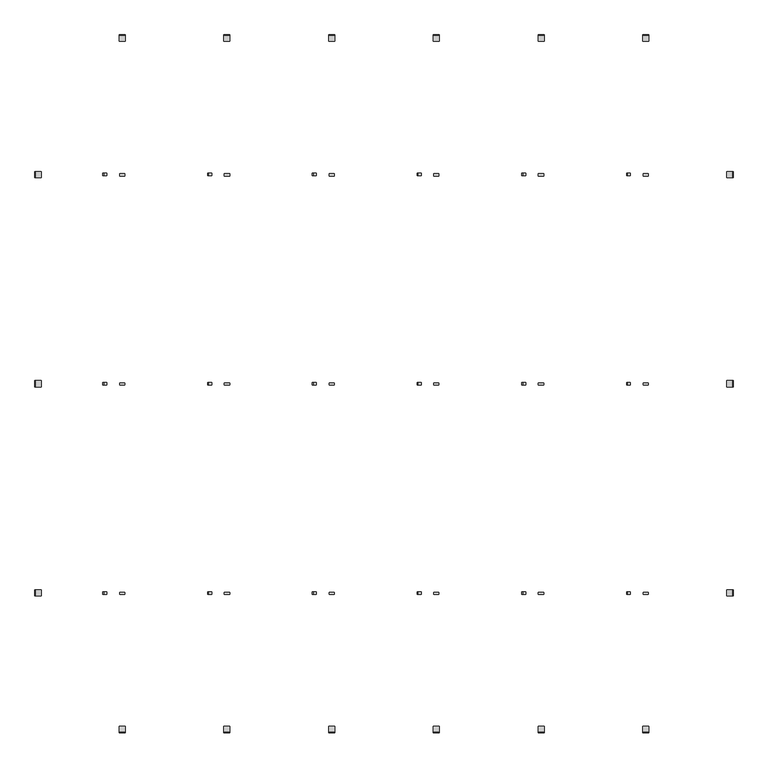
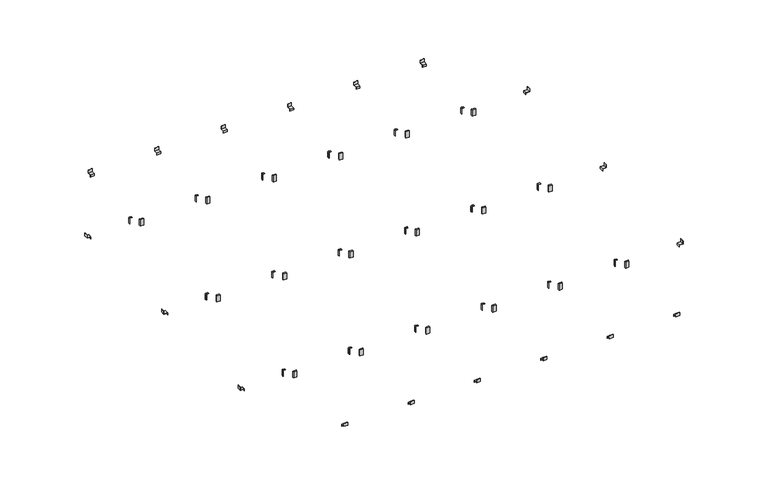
"""IFC4 building model written with IfcOpenShell, lengths in millimetres: proxy geometry, durlum_S1 : durlum_S1_600x600."""

from ifc_helpers import new_model, si_unit, point, frame, frame_2d, origin, place, context, project, spatial, polyline, circle_curve, trimmed, segment, composite_curve, outline, extrude, source, transform, mapped, element, save


def generic_models_de900850(model_context):
    return source(origin(), model_context, "Body", "SweptSolid", [
        extrude(outline(polyline([(2000.0, 2046.0), (1966.0, 2046.0), (1966.0, 2028.0), (1965.0, 2028.0), (1965.0, 2047.0), (1999.0, 2047.0), (1999.0, 2075.0), (2000.0, 2075.0), (2000.0, 2046.0)])), frame((882.6800527, 0.0, 0.0), z_axis=(1.0, 0.0, 0.0), x_axis=(0.0, 1.0, 0.0)), (0.0, 0.0, 1.0), 34.6398947),
        extrude(outline(polyline([(-2000.0, 2046.0), (-2000.0, 2075.0), (-1999.0, 2075.0), (-1999.0, 2047.0), (-1965.0, 2047.0), (-1965.0, 2028.0), (-1966.0, 2028.0), (-1966.0, 2046.0), (-2000.0, 2046.0)])), frame((882.6800527, 0.0, 0.0), z_axis=(1.0, 0.0, 0.0), x_axis=(0.0, 1.0, 0.0)), (0.0, 0.0, 1.0), 34.6398947),
        extrude(outline(polyline([(915.0, 3.6253613), (915.0, -8.4811477), (885.0, -8.4811477), (885.0, 3.6253613), (915.0, 3.6253613)])), frame((0.0, 0.0, 2028.8069112), z_axis=(0.0, 0.0, 1.0), x_axis=(1.0, 0.0, 0.0)), (0.0, 0.0, 1.0), 59.2290353),
        extrude(outline(polyline([(315.0, 3.6253613), (315.0, -8.4811477), (285.0, -8.4811477), (285.0, 3.6253613), (315.0, 3.6253613)])), frame((0.0, 0.0, 2028.8069112), z_axis=(0.0, 0.0, 1.0), x_axis=(1.0, 0.0, 0.0)), (0.0, 0.0, 1.0), 59.2290353),
        extrude(outline(polyline([(-285.0, 3.6253613), (-285.0, -8.4811477), (-315.0, -8.4811477), (-315.0, 3.6253613), (-285.0, 3.6253613)])), frame((0.0, 0.0, 2028.8069112), z_axis=(0.0, 0.0, 1.0), x_axis=(1.0, 0.0, 0.0)), (0.0, 0.0, 1.0), 59.2290353),
        extrude(outline(polyline([(-885.0, 3.6253613), (-885.0, -8.4811477), (-915.0, -8.4811477), (-915.0, 3.6253613), (-885.0, 3.6253613)])), frame((0.0, 0.0, 2028.8069112), z_axis=(0.0, 0.0, 1.0), x_axis=(1.0, 0.0, 0.0)), (0.0, 0.0, 1.0), 59.2290353),
        extrude(outline(polyline([(1515.0, 3.6253613), (1515.0, -8.4811477), (1485.0, -8.4811477), (1485.0, 3.6253613), (1515.0, 3.6253613)])), frame((0.0, 0.0, 2028.8069112), z_axis=(0.0, 0.0, 1.0), x_axis=(1.0, 0.0, 0.0)), (0.0, 0.0, 1.0), 59.2290353),
        extrude(outline(polyline([(-1485.0, 3.6253613), (-1485.0, -8.4811477), (-1515.0, -8.4811477), (-1515.0, 3.6253613), (-1485.0, 3.6253613)])), frame((0.0, 0.0, 2028.8069112), z_axis=(0.0, 0.0, 1.0), x_axis=(1.0, 0.0, 0.0)), (0.0, 0.0, 1.0), 59.2290353),
        extrude(outline(composite_curve([segment(polyline([(2131.0, -1010.0), (2079.0, -1010.0), (2079.0, -1008.0294653), (2131.0321248, -1008.0294653)]), True, "CONTINUOUS"), segment(trimmed(circle_curve(frame_2d((2131.0321248, -1006.0294653)), 2.0), [point((2131.0321248, -1008.0294653))], [point((2133.0321248, -1006.0294653))], True, "CARTESIAN"), True, "CONTINUOUS"), segment(polyline([(2133.0321248, -1006.0294653), (2133.0321248, -987.8), (2135.0, -987.8), (2135.0, -1006.0)]), True, "CONTINUOUS"), segment(trimmed(circle_curve(frame_2d((2131.0, -1006.0)), 4.0), [point((2135.0, -1006.0))], [point((2131.0, -1010.0))], False, "CARTESIAN"), True, "CONTINUOUS")], self_intersect=False)), frame((0.0, -7.0, 0.0), z_axis=(0.0, 1.0, 0.0), x_axis=(0.0, 0.0, 1.0)), (0.0, 0.0, 1.0), 14.0),
        extrude(outline(composite_curve([segment(polyline([(2131.0, -410.0), (2079.0, -410.0), (2079.0, -408.0294653), (2131.0321248, -408.0294653)]), True, "CONTINUOUS"), segment(trimmed(circle_curve(frame_2d((2131.0321248, -406.0294653)), 2.0), [point((2131.0321248, -408.0294653))], [point((2133.0321248, -406.0294653))], True, "CARTESIAN"), True, "CONTINUOUS"), segment(polyline([(2133.0321248, -406.0294653), (2133.0321248, -387.8), (2135.0, -387.8), (2135.0, -406.0)]), True, "CONTINUOUS"), segment(trimmed(circle_curve(frame_2d((2131.0, -406.0)), 4.0), [point((2135.0, -406.0))], [point((2131.0, -410.0))], False, "CARTESIAN"), True, "CONTINUOUS")], self_intersect=False)), frame((0.0, -7.0, 0.0), z_axis=(0.0, 1.0, 0.0), x_axis=(0.0, 0.0, 1.0)), (0.0, 0.0, 1.0), 14.0),
        extrude(outline(composite_curve([segment(polyline([(2131.0, 190.0), (2079.0, 190.0), (2079.0, 191.9705347), (2131.0321248, 191.9705347)]), True, "CONTINUOUS"), segment(trimmed(circle_curve(frame_2d((2131.0321248, 193.9705347)), 2.0), [point((2131.0321248, 191.9705347))], [point((2133.0321248, 193.9705347))], True, "CARTESIAN"), True, "CONTINUOUS"), segment(polyline([(2133.0321248, 193.9705347), (2133.0321248, 212.2), (2135.0, 212.2), (2135.0, 194.0)]), True, "CONTINUOUS"), segment(trimmed(circle_curve(frame_2d((2131.0, 194.0)), 4.0), [point((2135.0, 194.0))], [point((2131.0, 190.0))], False, "CARTESIAN"), True, "CONTINUOUS")], self_intersect=False)), frame((0.0, -7.0, 0.0), z_axis=(0.0, 1.0, 0.0), x_axis=(0.0, 0.0, 1.0)), (0.0, 0.0, 1.0), 14.0),
        extrude(outline(composite_curve([segment(polyline([(2131.0, 790.0), (2079.0, 790.0), (2079.0, 791.9705347), (2131.0321248, 791.9705347)]), True, "CONTINUOUS"), segment(trimmed(circle_curve(frame_2d((2131.0321248, 793.9705347)), 2.0), [point((2131.0321248, 791.9705347))], [point((2133.0321248, 793.9705347))], True, "CARTESIAN"), True, "CONTINUOUS"), segment(polyline([(2133.0321248, 793.9705347), (2133.0321248, 812.2), (2135.0, 812.2), (2135.0, 794.0)]), True, "CONTINUOUS"), segment(trimmed(circle_curve(frame_2d((2131.0, 794.0)), 4.0), [point((2135.0, 794.0))], [point((2131.0, 790.0))], False, "CARTESIAN"), True, "CONTINUOUS")], self_intersect=False)), frame((0.0, -7.0, 0.0), z_axis=(0.0, 1.0, 0.0), x_axis=(0.0, 0.0, 1.0)), (0.0, 0.0, 1.0), 14.0),
        extrude(outline(composite_curve([segment(polyline([(2131.0, -1610.0), (2079.0, -1610.0), (2079.0, -1608.0294653), (2131.0321248, -1608.0294653)]), True, "CONTINUOUS"), segment(trimmed(circle_curve(frame_2d((2131.0321248, -1606.0294653)), 2.0), [point((2131.0321248, -1608.0294653))], [point((2133.0321248, -1606.0294653))], True, "CARTESIAN"), True, "CONTINUOUS"), segment(polyline([(2133.0321248, -1606.0294653), (2133.0321248, -1587.8), (2135.0, -1587.8), (2135.0, -1606.0)]), True, "CONTINUOUS"), segment(trimmed(circle_curve(frame_2d((2131.0, -1606.0)), 4.0), [point((2135.0, -1606.0))], [point((2131.0, -1610.0))], False, "CARTESIAN"), True, "CONTINUOUS")], self_intersect=False)), frame((0.0, -7.0, 0.0), z_axis=(0.0, 1.0, 0.0), x_axis=(0.0, 0.0, 1.0)), (0.0, 0.0, 1.0), 14.0),
        extrude(outline(composite_curve([segment(polyline([(2131.0, 1390.0), (2079.0, 1390.0), (2079.0, 1391.9705347), (2131.0321248, 1391.9705347)]), True, "CONTINUOUS"), segment(trimmed(circle_curve(frame_2d((2131.0321248, 1393.9705347)), 2.0), [point((2131.0321248, 1391.9705347))], [point((2133.0321248, 1393.9705347))], True, "CARTESIAN"), True, "CONTINUOUS"), segment(polyline([(2133.0321248, 1393.9705347), (2133.0321248, 1412.2), (2135.0, 1412.2), (2135.0, 1394.0)]), True, "CONTINUOUS"), segment(trimmed(circle_curve(frame_2d((2131.0, 1394.0)), 4.0), [point((2135.0, 1394.0))], [point((2131.0, 1390.0))], False, "CARTESIAN"), True, "CONTINUOUS")], self_intersect=False)), frame((0.0, -7.0, 0.0), z_axis=(0.0, 1.0, 0.0), x_axis=(0.0, 0.0, 1.0)), (0.0, 0.0, 1.0), 14.0),
        extrude(outline(polyline([(2087.0, 2000.0), (2116.0, 2000.0), (2116.0, 1999.0), (2088.0, 1999.0), (2088.0, 1965.0), (2069.0, 1965.0), (2069.0, 1966.0), (2087.0, 1966.0), (2087.0, 2000.0)])), frame((0.0, -17.3199473, 0.0), z_axis=(0.0, 1.0, 0.0), x_axis=(0.0, 0.0, 1.0)), (0.0, 0.0, 1.0), 34.6398947),
        extrude(outline(polyline([(2087.0, -2000.0), (2087.0, -1966.0), (2069.0, -1966.0), (2069.0, -1965.0), (2088.0, -1965.0), (2088.0, -1999.0), (2116.0, -1999.0), (2116.0, -2000.0), (2087.0, -2000.0)])), frame((0.0, -17.3199473, 0.0), z_axis=(0.0, 1.0, 0.0), x_axis=(0.0, 0.0, 1.0)), (0.0, 0.0, 1.0), 34.6398947),
        extrude(outline(polyline([(2000.0, 2046.0), (1966.0, 2046.0), (1966.0, 2028.0), (1965.0, 2028.0), (1965.0, 2047.0), (1999.0, 2047.0), (1999.0, 2075.0), (2000.0, 2075.0), (2000.0, 2046.0)])), frame((282.6800527, 0.0, 0.0), z_axis=(1.0, 0.0, 0.0), x_axis=(0.0, 1.0, 0.0)), (0.0, 0.0, 1.0), 34.6398947),
        extrude(outline(polyline([(-2000.0, 2046.0), (-2000.0, 2075.0), (-1999.0, 2075.0), (-1999.0, 2047.0), (-1965.0, 2047.0), (-1965.0, 2028.0), (-1966.0, 2028.0), (-1966.0, 2046.0), (-2000.0, 2046.0)])), frame((282.6800527, 0.0, 0.0), z_axis=(1.0, 0.0, 0.0), x_axis=(0.0, 1.0, 0.0)), (0.0, 0.0, 1.0), 34.6398947),
        extrude(outline(polyline([(-2000.0, 2046.0), (-2000.0, 2075.0), (-1999.0, 2075.0), (-1999.0, 2047.0), (-1965.0, 2047.0), (-1965.0, 2028.0), (-1966.0, 2028.0), (-1966.0, 2046.0), (-2000.0, 2046.0)])), frame((-317.3199473, 0.0, 0.0), z_axis=(1.0, 0.0, 0.0), x_axis=(0.0, 1.0, 0.0)), (0.0, 0.0, 1.0), 34.6398947),
        extrude(outline(polyline([(-2000.0, 2046.0), (-2000.0, 2075.0), (-1999.0, 2075.0), (-1999.0, 2047.0), (-1965.0, 2047.0), (-1965.0, 2028.0), (-1966.0, 2028.0), (-1966.0, 2046.0), (-2000.0, 2046.0)])), frame((-917.3199473, 0.0, 0.0), z_axis=(1.0, 0.0, 0.0), x_axis=(0.0, 1.0, 0.0)), (0.0, 0.0, 1.0), 34.6398947),
        extrude(outline(polyline([(2000.0, 2046.0), (1966.0, 2046.0), (1966.0, 2028.0), (1965.0, 2028.0), (1965.0, 2047.0), (1999.0, 2047.0), (1999.0, 2075.0), (2000.0, 2075.0), (2000.0, 2046.0)])), frame((-317.3199473, 0.0, 0.0), z_axis=(1.0, 0.0, 0.0), x_axis=(0.0, 1.0, 0.0)), (0.0, 0.0, 1.0), 34.6398947),
        extrude(outline(polyline([(2000.0, 2046.0), (1966.0, 2046.0), (1966.0, 2028.0), (1965.0, 2028.0), (1965.0, 2047.0), (1999.0, 2047.0), (1999.0, 2075.0), (2000.0, 2075.0), (2000.0, 2046.0)])), frame((-917.3199473, 0.0, 0.0), z_axis=(1.0, 0.0, 0.0), x_axis=(0.0, 1.0, 0.0)), (0.0, 0.0, 1.0), 34.6398947),
        extrude(outline(polyline([(2000.0, 2046.0), (1966.0, 2046.0), (1966.0, 2028.0), (1965.0, 2028.0), (1965.0, 2047.0), (1999.0, 2047.0), (1999.0, 2075.0), (2000.0, 2075.0), (2000.0, 2046.0)])), frame((1482.6800527, 0.0, 0.0), z_axis=(1.0, 0.0, 0.0), x_axis=(0.0, 1.0, 0.0)), (0.0, 0.0, 1.0), 34.6398947),
        extrude(outline(polyline([(-2000.0, 2046.0), (-2000.0, 2075.0), (-1999.0, 2075.0), (-1999.0, 2047.0), (-1965.0, 2047.0), (-1965.0, 2028.0), (-1966.0, 2028.0), (-1966.0, 2046.0), (-2000.0, 2046.0)])), frame((1482.6800527, 0.0, 0.0), z_axis=(1.0, 0.0, 0.0), x_axis=(0.0, 1.0, 0.0)), (0.0, 0.0, 1.0), 34.6398947),
        extrude(outline(polyline([(-2000.0, 2046.0), (-2000.0, 2075.0), (-1999.0, 2075.0), (-1999.0, 2047.0), (-1965.0, 2047.0), (-1965.0, 2028.0), (-1966.0, 2028.0), (-1966.0, 2046.0), (-2000.0, 2046.0)])), frame((-1517.3199473, 0.0, 0.0), z_axis=(1.0, 0.0, 0.0), x_axis=(0.0, 1.0, 0.0)), (0.0, 0.0, 1.0), 34.6398947),
        extrude(outline(polyline([(2000.0, 2046.0), (1966.0, 2046.0), (1966.0, 2028.0), (1965.0, 2028.0), (1965.0, 2047.0), (1999.0, 2047.0), (1999.0, 2075.0), (2000.0, 2075.0), (2000.0, 2046.0)])), frame((-1517.3199473, 0.0, 0.0), z_axis=(1.0, 0.0, 0.0), x_axis=(0.0, 1.0, 0.0)), (0.0, 0.0, 1.0), 34.6398947),
        extrude(outline(polyline([(915.0, -1196.3746387), (915.0, -1208.4811477), (885.0, -1208.4811477), (885.0, -1196.3746387), (915.0, -1196.3746387)])), frame((0.0, 0.0, 2028.8069112), z_axis=(0.0, 0.0, 1.0), x_axis=(1.0, 0.0, 0.0)), (0.0, 0.0, 1.0), 59.2290353),
        extrude(outline(polyline([(315.0, -1196.3746387), (315.0, -1208.4811477), (285.0, -1208.4811477), (285.0, -1196.3746387), (315.0, -1196.3746387)])), frame((0.0, 0.0, 2028.8069112), z_axis=(0.0, 0.0, 1.0), x_axis=(1.0, 0.0, 0.0)), (0.0, 0.0, 1.0), 59.2290353),
        extrude(outline(polyline([(-285.0, -1196.3746387), (-285.0, -1208.4811477), (-315.0, -1208.4811477), (-315.0, -1196.3746387), (-285.0, -1196.3746387)])), frame((0.0, 0.0, 2028.8069112), z_axis=(0.0, 0.0, 1.0), x_axis=(1.0, 0.0, 0.0)), (0.0, 0.0, 1.0), 59.2290353),
        extrude(outline(polyline([(-885.0, -1196.3746387), (-885.0, -1208.4811477), (-915.0, -1208.4811477), (-915.0, -1196.3746387), (-885.0, -1196.3746387)])), frame((0.0, 0.0, 2028.8069112), z_axis=(0.0, 0.0, 1.0), x_axis=(1.0, 0.0, 0.0)), (0.0, 0.0, 1.0), 59.2290353),
        extrude(outline(polyline([(1515.0, -1196.3746387), (1515.0, -1208.4811477), (1485.0, -1208.4811477), (1485.0, -1196.3746387), (1515.0, -1196.3746387)])), frame((0.0, 0.0, 2028.8069112), z_axis=(0.0, 0.0, 1.0), x_axis=(1.0, 0.0, 0.0)), (0.0, 0.0, 1.0), 59.2290353),
        extrude(outline(polyline([(-1485.0, -1196.3746387), (-1485.0, -1208.4811477), (-1515.0, -1208.4811477), (-1515.0, -1196.3746387), (-1485.0, -1196.3746387)])), frame((0.0, 0.0, 2028.8069112), z_axis=(0.0, 0.0, 1.0), x_axis=(1.0, 0.0, 0.0)), (0.0, 0.0, 1.0), 59.2290353),
        extrude(outline(composite_curve([segment(polyline([(2131.0, -1010.0), (2079.0, -1010.0), (2079.0, -1008.0294653), (2131.0321248, -1008.0294653)]), True, "CONTINUOUS"), segment(trimmed(circle_curve(frame_2d((2131.0321248, -1006.0294653)), 2.0), [point((2131.0321248, -1008.0294653))], [point((2133.0321248, -1006.0294653))], True, "CARTESIAN"), True, "CONTINUOUS"), segment(polyline([(2133.0321248, -1006.0294653), (2133.0321248, -987.8), (2135.0, -987.8), (2135.0, -1006.0)]), True, "CONTINUOUS"), segment(trimmed(circle_curve(frame_2d((2131.0, -1006.0)), 4.0), [point((2135.0, -1006.0))], [point((2131.0, -1010.0))], False, "CARTESIAN"), True, "CONTINUOUS")], self_intersect=False)), frame((0.0, -1207.0, 0.0), z_axis=(0.0, 1.0, 0.0), x_axis=(0.0, 0.0, 1.0)), (0.0, 0.0, 1.0), 14.0),
        extrude(outline(composite_curve([segment(polyline([(2131.0, -410.0), (2079.0, -410.0), (2079.0, -408.0294653), (2131.0321248, -408.0294653)]), True, "CONTINUOUS"), segment(trimmed(circle_curve(frame_2d((2131.0321248, -406.0294653)), 2.0), [point((2131.0321248, -408.0294653))], [point((2133.0321248, -406.0294653))], True, "CARTESIAN"), True, "CONTINUOUS"), segment(polyline([(2133.0321248, -406.0294653), (2133.0321248, -387.8), (2135.0, -387.8), (2135.0, -406.0)]), True, "CONTINUOUS"), segment(trimmed(circle_curve(frame_2d((2131.0, -406.0)), 4.0), [point((2135.0, -406.0))], [point((2131.0, -410.0))], False, "CARTESIAN"), True, "CONTINUOUS")], self_intersect=False)), frame((0.0, -1207.0, 0.0), z_axis=(0.0, 1.0, 0.0), x_axis=(0.0, 0.0, 1.0)), (0.0, 0.0, 1.0), 14.0),
        extrude(outline(composite_curve([segment(polyline([(2131.0, 190.0), (2079.0, 190.0), (2079.0, 191.9705347), (2131.0321248, 191.9705347)]), True, "CONTINUOUS"), segment(trimmed(circle_curve(frame_2d((2131.0321248, 193.9705347)), 2.0), [point((2131.0321248, 191.9705347))], [point((2133.0321248, 193.9705347))], True, "CARTESIAN"), True, "CONTINUOUS"), segment(polyline([(2133.0321248, 193.9705347), (2133.0321248, 212.2), (2135.0, 212.2), (2135.0, 194.0)]), True, "CONTINUOUS"), segment(trimmed(circle_curve(frame_2d((2131.0, 194.0)), 4.0), [point((2135.0, 194.0))], [point((2131.0, 190.0))], False, "CARTESIAN"), True, "CONTINUOUS")], self_intersect=False)), frame((0.0, -1207.0, 0.0), z_axis=(0.0, 1.0, 0.0), x_axis=(0.0, 0.0, 1.0)), (0.0, 0.0, 1.0), 14.0),
        extrude(outline(composite_curve([segment(polyline([(2131.0, 790.0), (2079.0, 790.0), (2079.0, 791.9705347), (2131.0321248, 791.9705347)]), True, "CONTINUOUS"), segment(trimmed(circle_curve(frame_2d((2131.0321248, 793.9705347)), 2.0), [point((2131.0321248, 791.9705347))], [point((2133.0321248, 793.9705347))], True, "CARTESIAN"), True, "CONTINUOUS"), segment(polyline([(2133.0321248, 793.9705347), (2133.0321248, 812.2), (2135.0, 812.2), (2135.0, 794.0)]), True, "CONTINUOUS"), segment(trimmed(circle_curve(frame_2d((2131.0, 794.0)), 4.0), [point((2135.0, 794.0))], [point((2131.0, 790.0))], False, "CARTESIAN"), True, "CONTINUOUS")], self_intersect=False)), frame((0.0, -1207.0, 0.0), z_axis=(0.0, 1.0, 0.0), x_axis=(0.0, 0.0, 1.0)), (0.0, 0.0, 1.0), 14.0),
        extrude(outline(composite_curve([segment(polyline([(2131.0, -1610.0), (2079.0, -1610.0), (2079.0, -1608.0294653), (2131.0321248, -1608.0294653)]), True, "CONTINUOUS"), segment(trimmed(circle_curve(frame_2d((2131.0321248, -1606.0294653)), 2.0), [point((2131.0321248, -1608.0294653))], [point((2133.0321248, -1606.0294653))], True, "CARTESIAN"), True, "CONTINUOUS"), segment(polyline([(2133.0321248, -1606.0294653), (2133.0321248, -1587.8), (2135.0, -1587.8), (2135.0, -1606.0)]), True, "CONTINUOUS"), segment(trimmed(circle_curve(frame_2d((2131.0, -1606.0)), 4.0), [point((2135.0, -1606.0))], [point((2131.0, -1610.0))], False, "CARTESIAN"), True, "CONTINUOUS")], self_intersect=False)), frame((0.0, -1207.0, 0.0), z_axis=(0.0, 1.0, 0.0), x_axis=(0.0, 0.0, 1.0)), (0.0, 0.0, 1.0), 14.0),
        extrude(outline(composite_curve([segment(polyline([(2131.0, 1390.0), (2079.0, 1390.0), (2079.0, 1391.9705347), (2131.0321248, 1391.9705347)]), True, "CONTINUOUS"), segment(trimmed(circle_curve(frame_2d((2131.0321248, 1393.9705347)), 2.0), [point((2131.0321248, 1391.9705347))], [point((2133.0321248, 1393.9705347))], True, "CARTESIAN"), True, "CONTINUOUS"), segment(polyline([(2133.0321248, 1393.9705347), (2133.0321248, 1412.2), (2135.0, 1412.2), (2135.0, 1394.0)]), True, "CONTINUOUS"), segment(trimmed(circle_curve(frame_2d((2131.0, 1394.0)), 4.0), [point((2135.0, 1394.0))], [point((2131.0, 1390.0))], False, "CARTESIAN"), True, "CONTINUOUS")], self_intersect=False)), frame((0.0, -1207.0, 0.0), z_axis=(0.0, 1.0, 0.0), x_axis=(0.0, 0.0, 1.0)), (0.0, 0.0, 1.0), 14.0),
        extrude(outline(polyline([(2087.0, 2000.0), (2116.0, 2000.0), (2116.0, 1999.0), (2088.0, 1999.0), (2088.0, 1965.0), (2069.0, 1965.0), (2069.0, 1966.0), (2087.0, 1966.0), (2087.0, 2000.0)])), frame((0.0, -1217.3199473, 0.0), z_axis=(0.0, 1.0, 0.0), x_axis=(0.0, 0.0, 1.0)), (0.0, 0.0, 1.0), 34.6398947),
        extrude(outline(polyline([(2087.0, -2000.0), (2087.0, -1966.0), (2069.0, -1966.0), (2069.0, -1965.0), (2088.0, -1965.0), (2088.0, -1999.0), (2116.0, -1999.0), (2116.0, -2000.0), (2087.0, -2000.0)])), frame((0.0, -1217.3199473, 0.0), z_axis=(0.0, 1.0, 0.0), x_axis=(0.0, 0.0, 1.0)), (0.0, 0.0, 1.0), 34.6398947),
        extrude(outline(polyline([(915.0, 1203.6253613), (915.0, 1191.5188523), (885.0, 1191.5188523), (885.0, 1203.6253613), (915.0, 1203.6253613)])), frame((0.0, 0.0, 2028.8069112), z_axis=(0.0, 0.0, 1.0), x_axis=(1.0, 0.0, 0.0)), (0.0, 0.0, 1.0), 59.2290353),
        extrude(outline(polyline([(315.0, 1203.6253613), (315.0, 1191.5188523), (285.0, 1191.5188523), (285.0, 1203.6253613), (315.0, 1203.6253613)])), frame((0.0, 0.0, 2028.8069112), z_axis=(0.0, 0.0, 1.0), x_axis=(1.0, 0.0, 0.0)), (0.0, 0.0, 1.0), 59.2290353),
        extrude(outline(polyline([(-285.0, 1203.6253613), (-285.0, 1191.5188523), (-315.0, 1191.5188523), (-315.0, 1203.6253613), (-285.0, 1203.6253613)])), frame((0.0, 0.0, 2028.8069112), z_axis=(0.0, 0.0, 1.0), x_axis=(1.0, 0.0, 0.0)), (0.0, 0.0, 1.0), 59.2290353),
        extrude(outline(polyline([(-885.0, 1203.6253613), (-885.0, 1191.5188523), (-915.0, 1191.5188523), (-915.0, 1203.6253613), (-885.0, 1203.6253613)])), frame((0.0, 0.0, 2028.8069112), z_axis=(0.0, 0.0, 1.0), x_axis=(1.0, 0.0, 0.0)), (0.0, 0.0, 1.0), 59.2290353),
        extrude(outline(polyline([(1515.0, 1203.6253613), (1515.0, 1191.5188523), (1485.0, 1191.5188523), (1485.0, 1203.6253613), (1515.0, 1203.6253613)])), frame((0.0, 0.0, 2028.8069112), z_axis=(0.0, 0.0, 1.0), x_axis=(1.0, 0.0, 0.0)), (0.0, 0.0, 1.0), 59.2290353),
        extrude(outline(polyline([(-1485.0, 1203.6253613), (-1485.0, 1191.5188523), (-1515.0, 1191.5188523), (-1515.0, 1203.6253613), (-1485.0, 1203.6253613)])), frame((0.0, 0.0, 2028.8069112), z_axis=(0.0, 0.0, 1.0), x_axis=(1.0, 0.0, 0.0)), (0.0, 0.0, 1.0), 59.2290353),
        extrude(outline(composite_curve([segment(polyline([(2131.0, -1010.0), (2079.0, -1010.0), (2079.0, -1008.0294653), (2131.0321248, -1008.0294653)]), True, "CONTINUOUS"), segment(trimmed(circle_curve(frame_2d((2131.0321248, -1006.0294653)), 2.0), [point((2131.0321248, -1008.0294653))], [point((2133.0321248, -1006.0294653))], True, "CARTESIAN"), True, "CONTINUOUS"), segment(polyline([(2133.0321248, -1006.0294653), (2133.0321248, -987.8), (2135.0, -987.8), (2135.0, -1006.0)]), True, "CONTINUOUS"), segment(trimmed(circle_curve(frame_2d((2131.0, -1006.0)), 4.0), [point((2135.0, -1006.0))], [point((2131.0, -1010.0))], False, "CARTESIAN"), True, "CONTINUOUS")], self_intersect=False)), frame((0.0, 1193.0, 0.0), z_axis=(0.0, 1.0, 0.0), x_axis=(0.0, 0.0, 1.0)), (0.0, 0.0, 1.0), 14.0),
        extrude(outline(composite_curve([segment(polyline([(2131.0, -410.0), (2079.0, -410.0), (2079.0, -408.0294653), (2131.0321248, -408.0294653)]), True, "CONTINUOUS"), segment(trimmed(circle_curve(frame_2d((2131.0321248, -406.0294653)), 2.0), [point((2131.0321248, -408.0294653))], [point((2133.0321248, -406.0294653))], True, "CARTESIAN"), True, "CONTINUOUS"), segment(polyline([(2133.0321248, -406.0294653), (2133.0321248, -387.8), (2135.0, -387.8), (2135.0, -406.0)]), True, "CONTINUOUS"), segment(trimmed(circle_curve(frame_2d((2131.0, -406.0)), 4.0), [point((2135.0, -406.0))], [point((2131.0, -410.0))], False, "CARTESIAN"), True, "CONTINUOUS")], self_intersect=False)), frame((0.0, 1193.0, 0.0), z_axis=(0.0, 1.0, 0.0), x_axis=(0.0, 0.0, 1.0)), (0.0, 0.0, 1.0), 14.0),
        extrude(outline(composite_curve([segment(polyline([(2131.0, 190.0), (2079.0, 190.0), (2079.0, 191.9705347), (2131.0321248, 191.9705347)]), True, "CONTINUOUS"), segment(trimmed(circle_curve(frame_2d((2131.0321248, 193.9705347)), 2.0), [point((2131.0321248, 191.9705347))], [point((2133.0321248, 193.9705347))], True, "CARTESIAN"), True, "CONTINUOUS"), segment(polyline([(2133.0321248, 193.9705347), (2133.0321248, 212.2), (2135.0, 212.2), (2135.0, 194.0)]), True, "CONTINUOUS"), segment(trimmed(circle_curve(frame_2d((2131.0, 194.0)), 4.0), [point((2135.0, 194.0))], [point((2131.0, 190.0))], False, "CARTESIAN"), True, "CONTINUOUS")], self_intersect=False)), frame((0.0, 1193.0, 0.0), z_axis=(0.0, 1.0, 0.0), x_axis=(0.0, 0.0, 1.0)), (0.0, 0.0, 1.0), 14.0),
        extrude(outline(composite_curve([segment(polyline([(2131.0, 790.0), (2079.0, 790.0), (2079.0, 791.9705347), (2131.0321248, 791.9705347)]), True, "CONTINUOUS"), segment(trimmed(circle_curve(frame_2d((2131.0321248, 793.9705347)), 2.0), [point((2131.0321248, 791.9705347))], [point((2133.0321248, 793.9705347))], True, "CARTESIAN"), True, "CONTINUOUS"), segment(polyline([(2133.0321248, 793.9705347), (2133.0321248, 812.2), (2135.0, 812.2), (2135.0, 794.0)]), True, "CONTINUOUS"), segment(trimmed(circle_curve(frame_2d((2131.0, 794.0)), 4.0), [point((2135.0, 794.0))], [point((2131.0, 790.0))], False, "CARTESIAN"), True, "CONTINUOUS")], self_intersect=False)), frame((0.0, 1193.0, 0.0), z_axis=(0.0, 1.0, 0.0), x_axis=(0.0, 0.0, 1.0)), (0.0, 0.0, 1.0), 14.0),
        extrude(outline(composite_curve([segment(polyline([(2131.0, -1610.0), (2079.0, -1610.0), (2079.0, -1608.0294653), (2131.0321248, -1608.0294653)]), True, "CONTINUOUS"), segment(trimmed(circle_curve(frame_2d((2131.0321248, -1606.0294653)), 2.0), [point((2131.0321248, -1608.0294653))], [point((2133.0321248, -1606.0294653))], True, "CARTESIAN"), True, "CONTINUOUS"), segment(polyline([(2133.0321248, -1606.0294653), (2133.0321248, -1587.8), (2135.0, -1587.8), (2135.0, -1606.0)]), True, "CONTINUOUS"), segment(trimmed(circle_curve(frame_2d((2131.0, -1606.0)), 4.0), [point((2135.0, -1606.0))], [point((2131.0, -1610.0))], False, "CARTESIAN"), True, "CONTINUOUS")], self_intersect=False)), frame((0.0, 1193.0, 0.0), z_axis=(0.0, 1.0, 0.0), x_axis=(0.0, 0.0, 1.0)), (0.0, 0.0, 1.0), 14.0),
        extrude(outline(composite_curve([segment(polyline([(2131.0, 1390.0), (2079.0, 1390.0), (2079.0, 1391.9705347), (2131.0321248, 1391.9705347)]), True, "CONTINUOUS"), segment(trimmed(circle_curve(frame_2d((2131.0321248, 1393.9705347)), 2.0), [point((2131.0321248, 1391.9705347))], [point((2133.0321248, 1393.9705347))], True, "CARTESIAN"), True, "CONTINUOUS"), segment(polyline([(2133.0321248, 1393.9705347), (2133.0321248, 1412.2), (2135.0, 1412.2), (2135.0, 1394.0)]), True, "CONTINUOUS"), segment(trimmed(circle_curve(frame_2d((2131.0, 1394.0)), 4.0), [point((2135.0, 1394.0))], [point((2131.0, 1390.0))], False, "CARTESIAN"), True, "CONTINUOUS")], self_intersect=False)), frame((0.0, 1193.0, 0.0), z_axis=(0.0, 1.0, 0.0), x_axis=(0.0, 0.0, 1.0)), (0.0, 0.0, 1.0), 14.0),
        extrude(outline(polyline([(2087.0, 2000.0), (2116.0, 2000.0), (2116.0, 1999.0), (2088.0, 1999.0), (2088.0, 1965.0), (2069.0, 1965.0), (2069.0, 1966.0), (2087.0, 1966.0), (2087.0, 2000.0)])), frame((0.0, 1182.6800527, 0.0), z_axis=(0.0, 1.0, 0.0), x_axis=(0.0, 0.0, 1.0)), (0.0, 0.0, 1.0), 34.6398947),
        extrude(outline(polyline([(2087.0, -2000.0), (2087.0, -1966.0), (2069.0, -1966.0), (2069.0, -1965.0), (2088.0, -1965.0), (2088.0, -1999.0), (2116.0, -1999.0), (2116.0, -2000.0), (2087.0, -2000.0)])), frame((0.0, 1182.6800527, 0.0), z_axis=(0.0, 1.0, 0.0), x_axis=(0.0, 0.0, 1.0)), (0.0, 0.0, 1.0), 34.6398947),
    ])


if __name__ == "__main__":
    model = new_model("IFC4")
    model_context = context("Model", 3, world=origin())
    ifc_project = project(units=[si_unit("LENGTHUNIT", "METRE", prefix="MILLI")], contexts=[model_context])
    site = spatial("IfcSite", under=ifc_project)
    building = spatial("IfcBuilding", under=site)
    placement = place(None, origin())
    generic_models_shape = generic_models_de900850(model_context)
    element("IfcBuildingElementProxy", 1, Name="durlum_S1 : durlum_S1_600x600", ObjectType="durlum_S1 : durlum_S1_600x600", at=placement, inside=building, context=model_context, shape_type="MappedRepresentation", body=[
        mapped(generic_models_shape, transform((0.0, 0.0, 0.0), x_axis=(1.0, 0.0, 0.0), y_axis=(0.0, 1.0, 0.0), z_axis=(0.0, 0.0, 1.0))),
    ])
    save(model, "model.ifc")
